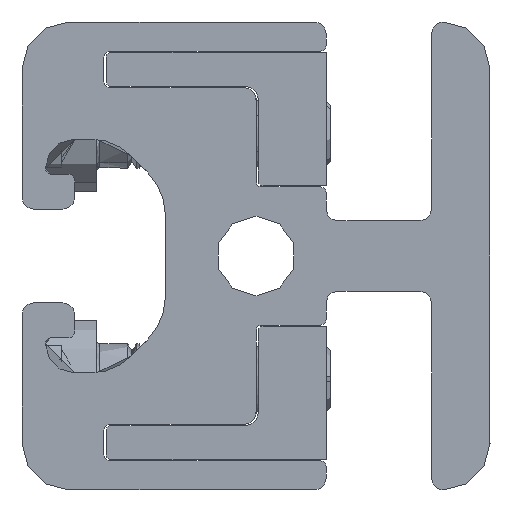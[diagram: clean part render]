
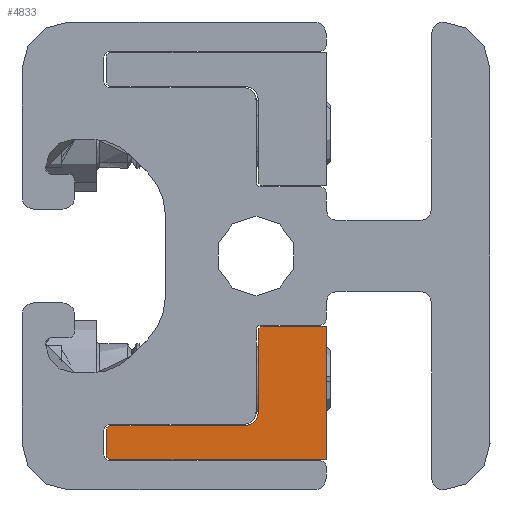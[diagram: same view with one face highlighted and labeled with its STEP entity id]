
A CAD part, left-side view. The second image highlights one B-rep face of the part: STEP entity #4833.
In plain terms, the highlighted planar face has unit normal (-1, 0, 0) as drawn and (0, 0, 1) by its records, which use the part's own axes.
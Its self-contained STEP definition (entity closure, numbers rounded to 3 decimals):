
#1758 = DIRECTION ( 'NONE',  ( -1., 0., 0. ) ) ;
#1792 = EDGE_CURVE ( 'NONE', #37308, #9049, #25947, .T. ) ;
#2090 = DIRECTION ( 'NONE',  ( 1., 0., 0. ) ) ;
#2094 = DIRECTION ( 'NONE',  ( 0., -1., 0. ) ) ;
#2267 = DIRECTION ( 'NONE',  ( 0., 0., 1. ) ) ;
#2373 = VERTEX_POINT ( 'NONE', #44509 ) ;
#3268 = VERTEX_POINT ( 'NONE', #38907 ) ;
#3586 = DIRECTION ( 'NONE',  ( 0., 1., 0. ) ) ;
#4279 = VERTEX_POINT ( 'NONE', #43706 ) ;
#4833 = ADVANCED_FACE ( 'NONE', ( #37766 ), #20130, .T. ) ;
#4923 = CIRCLE ( 'NONE', #10906, 0.4 ) ;
#5108 = EDGE_CURVE ( 'NONE', #4279, #2373, #40914, .T. ) ;
#5838 = CARTESIAN_POINT ( 'NONE',  ( 11., 5.4, 0. ) ) ;
#8365 = DIRECTION ( 'NONE',  ( -1., 0., 0. ) ) ;
#8592 = LINE ( 'NONE', #30215, #16956 ) ;
#9049 = VERTEX_POINT ( 'NONE', #37261 ) ;
#10107 = CARTESIAN_POINT ( 'NONE',  ( 2.5, 18.4, 0. ) ) ;
#10625 = CARTESIAN_POINT ( 'NONE',  ( 2.9, 6.9, 0. ) ) ;
#10906 = AXIS2_PLACEMENT_3D ( 'NONE', #11479, #39917, #25814 ) ;
#11082 = AXIS2_PLACEMENT_3D ( 'NONE', #5838, #31448, #2090 ) ;
#11092 = LINE ( 'NONE', #10625, #40038 ) ;
#11479 = CARTESIAN_POINT ( 'NONE',  ( 0.4, 18.4, 0. ) ) ;
#12052 = ORIENTED_EDGE ( 'NONE', *, *, #43192, .T. ) ;
#13242 = CARTESIAN_POINT ( 'NONE',  ( 11., 5.8, 0. ) ) ;
#15951 = ORIENTED_EDGE ( 'NONE', *, *, #1792, .T. ) ;
#16046 = ORIENTED_EDGE ( 'NONE', *, *, #31583, .T. ) ;
#16087 = CARTESIAN_POINT ( 'NONE',  ( 4., 6.9, 0. ) ) ;
#16956 = VECTOR ( 'NONE', #8365, 1000. ) ;
#17025 = CARTESIAN_POINT ( 'NONE',  ( 11.4, 0., 0. ) ) ;
#19312 = ORIENTED_EDGE ( 'NONE', *, *, #24553, .T. ) ;
#19319 = VECTOR ( 'NONE', #38161, 1000. ) ;
#20130 = PLANE ( 'NONE',  #39368 ) ;
#21342 = LINE ( 'NONE', #42482, #26736 ) ;
#22086 = CARTESIAN_POINT ( 'NONE',  ( 0., 18.4, 0. ) ) ;
#22932 = CARTESIAN_POINT ( 'NONE',  ( 11.4, 5.4, 0. ) ) ;
#23676 = DIRECTION ( 'NONE',  ( 1., 0., 0. ) ) ;
#23716 = CARTESIAN_POINT ( 'NONE',  ( 2.5, 18.8, 0. ) ) ;
#24200 = VECTOR ( 'NONE', #2094, 1000. ) ;
#24553 = EDGE_CURVE ( 'NONE', #2373, #25289, #11092, .T. ) ;
#25289 = VERTEX_POINT ( 'NONE', #27633 ) ;
#25814 = DIRECTION ( 'NONE',  ( 1., 0., 0. ) ) ;
#25947 = CIRCLE ( 'NONE', #11082, 0.4 ) ;
#26156 = ORIENTED_EDGE ( 'NONE', *, *, #37285, .T. ) ;
#26736 = VECTOR ( 'NONE', #45783, 1000. ) ;
#27070 = ORIENTED_EDGE ( 'NONE', *, *, #31365, .T. ) ;
#27132 = EDGE_CURVE ( 'NONE', #41013, #37308, #21342, .T. ) ;
#27633 = CARTESIAN_POINT ( 'NONE',  ( 2.9, 18.4, 0. ) ) ;
#27686 = ORIENTED_EDGE ( 'NONE', *, *, #5108, .T. ) ;
#27962 = CIRCLE ( 'NONE', #33201, 0.4 ) ;
#29537 = ORIENTED_EDGE ( 'NONE', *, *, #43031, .T. ) ;
#29926 = VERTEX_POINT ( 'NONE', #46027 ) ;
#30215 = CARTESIAN_POINT ( 'NONE',  ( 2.5, 18.8, 0. ) ) ;
#30762 = LINE ( 'NONE', #41785, #24200 ) ;
#31365 = EDGE_CURVE ( 'NONE', #25289, #32810, #27962, .T. ) ;
#31448 = DIRECTION ( 'NONE',  ( 0., 0., 1. ) ) ;
#31583 = EDGE_CURVE ( 'NONE', #38726, #3268, #30762, .T. ) ;
#32810 = VERTEX_POINT ( 'NONE', #23716 ) ;
#33201 = AXIS2_PLACEMENT_3D ( 'NONE', #10107, #42757, #39247 ) ;
#33592 = ORIENTED_EDGE ( 'NONE', *, *, #45423, .T. ) ;
#33601 = EDGE_LOOP ( 'NONE', ( #16046, #12052, #45752, #15951, #33592, #27686, #19312, #27070, #26156, #29537 ) ) ;
#34458 = CARTESIAN_POINT ( 'NONE',  ( 11., 5.4, 0. ) ) ;
#35382 = DIRECTION ( 'NONE',  ( 1., 0., 0. ) ) ;
#37261 = CARTESIAN_POINT ( 'NONE',  ( 11., 5.8, 0. ) ) ;
#37285 = EDGE_CURVE ( 'NONE', #32810, #29926, #8592, .T. ) ;
#37308 = VERTEX_POINT ( 'NONE', #22932 ) ;
#37766 = FACE_OUTER_BOUND ( 'NONE', #33601, .T. ) ;
#38161 = DIRECTION ( 'NONE',  ( -1., 0., 0. ) ) ;
#38169 = DIRECTION ( 'NONE',  ( 0., 0., -1. ) ) ;
#38726 = VERTEX_POINT ( 'NONE', #22086 ) ;
#38907 = CARTESIAN_POINT ( 'NONE',  ( 0., 0., 0. ) ) ;
#39247 = DIRECTION ( 'NONE',  ( 1., 0., 0. ) ) ;
#39368 = AXIS2_PLACEMENT_3D ( 'NONE', #34458, #2267, #35382 ) ;
#39917 = DIRECTION ( 'NONE',  ( 0., 0., 1. ) ) ;
#40038 = VECTOR ( 'NONE', #3586, 1000. ) ;
#40914 = CIRCLE ( 'NONE', #43895, 1.1 ) ;
#41013 = VERTEX_POINT ( 'NONE', #17025 ) ;
#41530 = LINE ( 'NONE', #46196, #42397 ) ;
#41785 = CARTESIAN_POINT ( 'NONE',  ( 0., 18.4, 0. ) ) ;
#42397 = VECTOR ( 'NONE', #23676, 1000. ) ;
#42482 = CARTESIAN_POINT ( 'NONE',  ( 11.4, 0., 0. ) ) ;
#42757 = DIRECTION ( 'NONE',  ( 0., 0., 1. ) ) ;
#43031 = EDGE_CURVE ( 'NONE', #29926, #38726, #4923, .T. ) ;
#43192 = EDGE_CURVE ( 'NONE', #3268, #41013, #41530, .T. ) ;
#43706 = CARTESIAN_POINT ( 'NONE',  ( 4., 5.8, 0. ) ) ;
#43895 = AXIS2_PLACEMENT_3D ( 'NONE', #16087, #38169, #1758 ) ;
#44509 = CARTESIAN_POINT ( 'NONE',  ( 2.9, 6.9, 0. ) ) ;
#45423 = EDGE_CURVE ( 'NONE', #9049, #4279, #45655, .T. ) ;
#45655 = LINE ( 'NONE', #13242, #19319 ) ;
#45752 = ORIENTED_EDGE ( 'NONE', *, *, #27132, .T. ) ;
#45783 = DIRECTION ( 'NONE',  ( 0., 1., 0. ) ) ;
#46027 = CARTESIAN_POINT ( 'NONE',  ( 0.4, 18.8, 0. ) ) ;
#46196 = CARTESIAN_POINT ( 'NONE',  ( 0., 0., 0. ) ) ;
